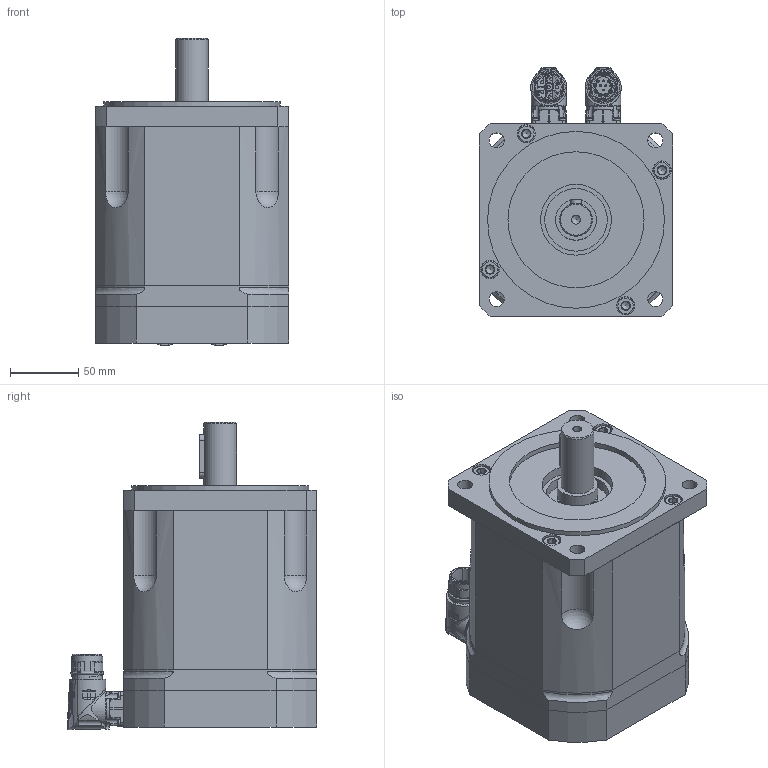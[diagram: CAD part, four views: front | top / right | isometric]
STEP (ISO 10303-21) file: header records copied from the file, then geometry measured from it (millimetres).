
FILE_DESCRIPTION(/* description */ (''),/* implementation_level */ '2;1');
FILE_NAME(/* name */ 'C:\Users\Public\Documents\Autodesk\Inventor LT 2014\Workspace\Motori Sito WEB\TG_5\STEP_DSM5_5x\DSM5_51_x097.stp',/* time_stamp */ '2021-03-31T14:15:59+02:00',/* author */ ('marcor'),/* organization */ (''),/* preprocessor_version */ 'ST-DEVELOPER v15.2',/* originating_system */ 'Autodesk Inventor LT ',/* authorisation */ '');
FILE_SCHEMA (('AUTOMOTIVE_DESIGN { 1 0 10303 214 3 1 1 }'));
Products named in the file (1): DSM5_51_x097
Bounding box: 142 x 183.5 x 225.91 mm (x, y, z)
Volume: 3236971.8 mm3; surface area: 287331.1 mm2
Topology: 16 solids, 32 shells, 1520 faces, 3947 edges, 2627 vertices
Faces by surface type: plane 530, cylinder 449, cone 319, bspline 113, torus 77, sphere 32
Full cylindrical faces by diameter (mm): 1.2 x12, 2.013 x8, 2.224 x8, 2.233 x6, 2.5 x8, 2.88 x8, 3.26 x8, 4.5 x2, 4.8 x8, 4.917 x4, 5.5 x3, 5.9 x2, 6 x4, 6.5 x4, 6.647 x9, 8 x8, 8.5 x8, 10 x4, 11 x8, 13 x8, 13.5 x8, 15.2 x1, 17.4 x3, 18 x1, 19.8 x1, 20 x2, 21.15 x4, 21.6 x1, 21.653 x2, 24 x1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
Entity records: 53510 total; most frequent: CARTESIAN_POINT 18180, ORIENTED_EDGE 6978, DIRECTION 6567, EDGE_CURVE 3489, AXIS2_PLACEMENT_3D 2668, VERTEX_POINT 2503, EDGE_LOOP 2036, ADVANCED_FACE 1520
